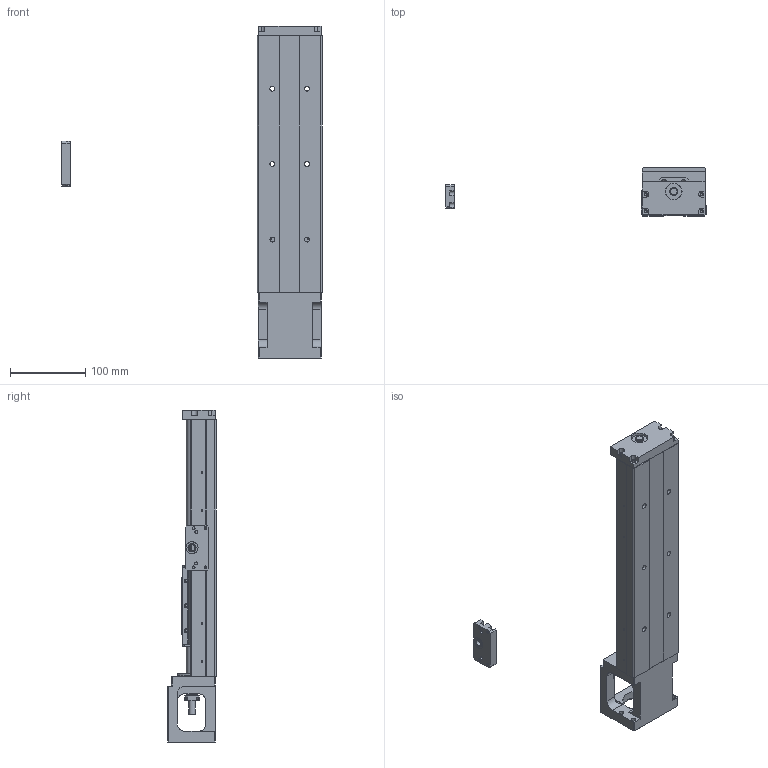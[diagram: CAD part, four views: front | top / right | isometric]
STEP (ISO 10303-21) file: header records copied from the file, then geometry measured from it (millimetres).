
FILE_DESCRIPTION(/* description */ (''),/* implementation_level */ '2;1');
FILE_NAME(/* name */ 'KP46N-340C02-1.stp',/* time_stamp */ '2020-07-01T16:11:45+08:00',/* author */ (''),/* organization */ (''),/* preprocessor_version */ 'ST-DEVELOPER v14',/* originating_system */ 'SIEMENS PLM Software NX 8.0',/* authorisation */ '');
FILE_SCHEMA (('AUTOMOTIVE_DESIGN { 1 0 10303 214 3 1 1 1 }'));
Products named in the file (1): model1
Bounding box: 345 x 64 x 440 mm (x, y, z)
Volume: 3099447.3 mm3; surface area: 645846.6 mm2
Topology: 17 solids, 45 shells, 1845 faces, 4854 edges, 3199 vertices
Faces by surface type: plane 893, cylinder 655, cone 158, bspline 105, torus 26, extrusion 8
Full cylindrical faces by diameter (mm): 2.11 x12, 2.15 x12, 2.42 x24, 3 x18, 3.2 x12, 3.3 x18, 3.4 x24, 3.5 x8, 3.969 x2, 4.001 x2, 4.2 x12, 4.5 x24, 5 x30, 6 x24, 6.35 x6, 6.6 x18, 8 x5, 9.6 x3, 10 x9, 10.72 x6, 11 x18, 12 x3, 14.95 x6, 15 x3, 16 x14, 22 x9, 27.5 x3, 44 x3, 50 x3
Entity records: 91502 total; most frequent: CARTESIAN_POINT 36289, ORIENTED_EDGE 8372, DIRECTION 8328, EDGE_CURVE 4186, AXIS2_PLACEMENT_3D 3013, VERTEX_POINT 3006, EDGE_LOOP 2598, VECTOR 2302
